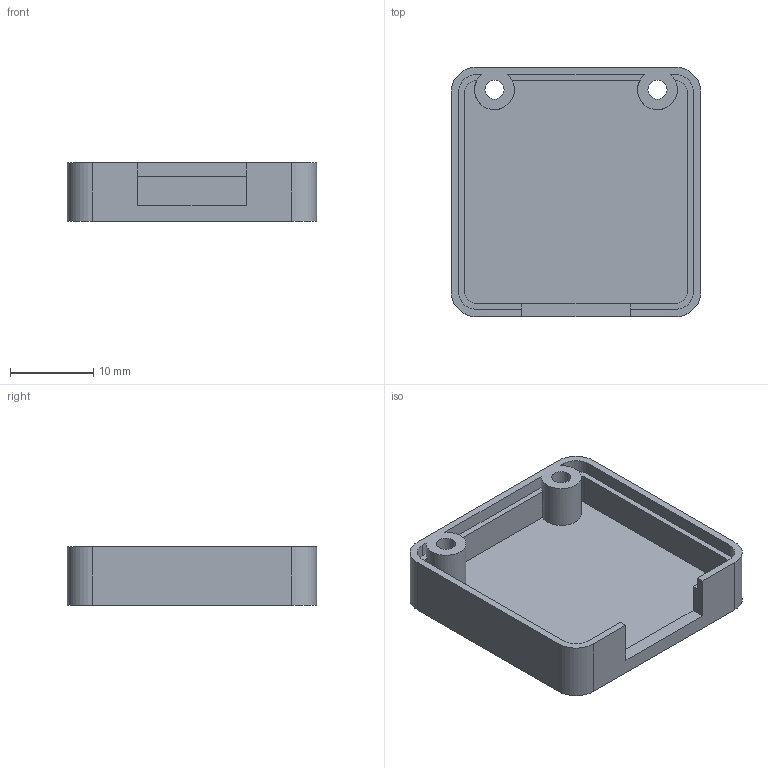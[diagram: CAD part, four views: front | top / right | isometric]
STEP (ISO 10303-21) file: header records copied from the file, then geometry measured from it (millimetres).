
FILE_DESCRIPTION(('FreeCAD Model'),'2;1');
FILE_NAME('Open CASCADE Shape Model','2026-09-05T20:39:50',('FreeCAD'),( 'FreeCAD'),'Open CASCADE STEP processor 7.8','FreeCAD','Unknown');
FILE_SCHEMA(('AUTOMOTIVE_DESIGN { 1 0 10303 214 1 1 1 1 }'));
Length unit declared in the file: millimetre
Products named in the file (1): Open CASCADE STEP translator 7.8 1
Bounding box: 30 x 30 x 7 mm (x, y, z)
Volume: 2259 mm3; surface area: 3190.1 mm2
Topology: 1 solids, 1 shells, 44 faces, 128 edges, 86 vertices
Faces by surface type: plane 26, cylinder 16, cone 2
Full cylindrical faces by diameter (mm): 2.3 x2
Entity records: 1488 total; most frequent: DIRECTION 260, CARTESIAN_POINT 259, ORIENTED_EDGE 256, EDGE_CURVE 128, AXIS2_PLACEMENT_3D 87, VERTEX_POINT 86, LINE 86, VECTOR 86
